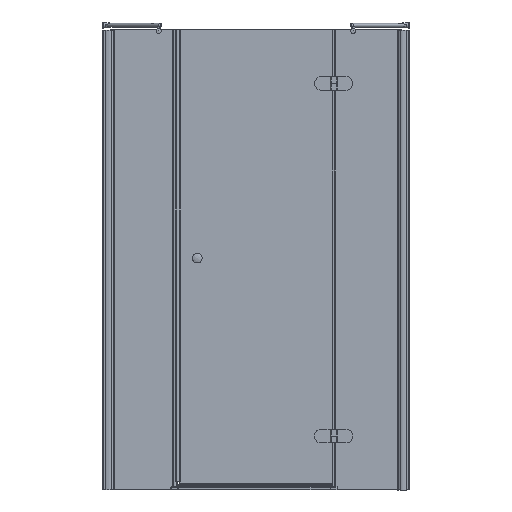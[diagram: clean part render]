
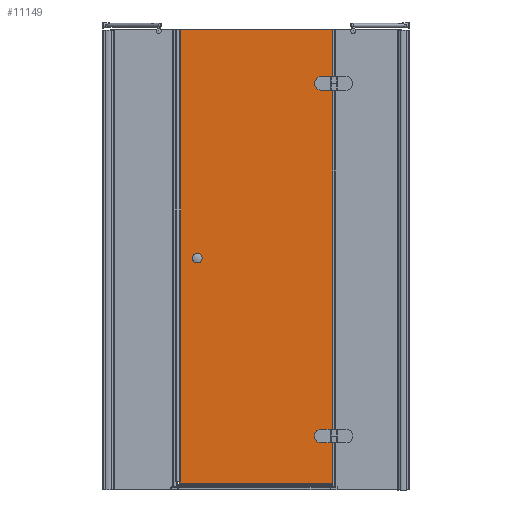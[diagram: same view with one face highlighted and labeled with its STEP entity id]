
A CAD part, front view. The second image highlights one B-rep face of the part: STEP entity #11149.
In plain terms, the highlighted planar face has unit normal (0, -1, 0).
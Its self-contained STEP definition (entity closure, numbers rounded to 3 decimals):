
#70=LINE($,#15742,#1174);
#78=LINE($,#15777,#1182);
#139=LINE($,#16171,#1243);
#143=LINE($,#16178,#1247);
#146=LINE($,#16187,#1250);
#236=LINE($,#16419,#1340);
#240=LINE($,#16426,#1344);
#243=LINE($,#16435,#1347);
#379=LINE($,#16868,#1483);
#967=LINE($,#18336,#2071);
#969=LINE($,#18343,#2073);
#979=LINE($,#18373,#2083);
#981=LINE($,#18376,#2085);
#984=LINE($,#18381,#2088);
#985=LINE($,#18383,#2089);
#1174=VECTOR($,#12446,3.387);
#1182=VECTOR($,#12474,595.4);
#1243=VECTOR($,#12641,52.);
#1247=VECTOR($,#12647,23.);
#1250=VECTOR($,#12658,23.);
#1340=VECTOR($,#12884,52.);
#1344=VECTOR($,#12890,23.);
#1347=VECTOR($,#12901,23.);
#1483=VECTOR($,#13281,600.);
#2071=VECTOR($,#14689,1767.);
#2073=VECTOR($,#14697,1767.);
#2083=VECTOR($,#14735,1767.);
#2085=VECTOR($,#14739,1.213);
#2088=VECTOR($,#14746,8.4);
#2089=VECTOR($,#14749,1775.4);
#2515=FACE_BOUND($,#3640,.T.);
#2516=FACE_BOUND($,#3641,.T.);
#2517=FACE_BOUND($,#3642,.T.);
#3640=EDGE_LOOP($,(#8894,#8895,#8896,#8897));
#3641=EDGE_LOOP($,(#8898,#8899,#8900,#8901));
#3642=EDGE_LOOP($,(#8902,#8903,#8904,#8905,#8906,#8907,#8908,#8909,#8910));
#3852=CIRCLE($,#11429,26.);
#3875=CIRCLE($,#11502,26.);
#4206=VERTEX_POINT($,#15740);
#4207=VERTEX_POINT($,#15741);
#4223=VERTEX_POINT($,#15774);
#4224=VERTEX_POINT($,#15776);
#4307=VERTEX_POINT($,#16168);
#4308=VERTEX_POINT($,#16170);
#4310=VERTEX_POINT($,#16176);
#4312=VERTEX_POINT($,#16182);
#4385=VERTEX_POINT($,#16416);
#4386=VERTEX_POINT($,#16418);
#4388=VERTEX_POINT($,#16424);
#4390=VERTEX_POINT($,#16430);
#4532=VERTEX_POINT($,#16864);
#4533=VERTEX_POINT($,#16866);
#4953=VERTEX_POINT($,#18335);
#4955=VERTEX_POINT($,#18341);
#4961=VERTEX_POINT($,#18371);
#5169=EDGE_CURVE($,#4206,#4207,#70,.T.);
#5187=EDGE_CURVE($,#4224,#4223,#78,.T.);
#5287=EDGE_CURVE($,#4307,#4308,#139,.T.);
#5291=EDGE_CURVE($,#4310,#4307,#143,.T.);
#5294=EDGE_CURVE($,#4312,#4310,#3852,.T.);
#5296=EDGE_CURVE($,#4308,#4312,#146,.T.);
#5407=EDGE_CURVE($,#4385,#4386,#236,.T.);
#5411=EDGE_CURVE($,#4388,#4385,#240,.T.);
#5414=EDGE_CURVE($,#4390,#4388,#3875,.T.);
#5416=EDGE_CURVE($,#4386,#4390,#243,.T.);
#5614=EDGE_CURVE($,#4533,#4532,#379,.T.);
#6333=EDGE_CURVE($,#4953,#4206,#967,.T.);
#6337=EDGE_CURVE($,#4955,#4223,#969,.T.);
#6352=EDGE_CURVE($,#4961,#4207,#979,.T.);
#6354=EDGE_CURVE($,#4953,#4955,#981,.T.);
#6357=EDGE_CURVE($,#4532,#4961,#984,.T.);
#6358=EDGE_CURVE($,#4533,#4224,#985,.T.);
#8894=ORIENTED_EDGE($,*,*,#5287,.F.);
#8895=ORIENTED_EDGE($,*,*,#5291,.F.);
#8896=ORIENTED_EDGE($,*,*,#5294,.F.);
#8897=ORIENTED_EDGE($,*,*,#5296,.F.);
#8898=ORIENTED_EDGE($,*,*,#5407,.F.);
#8899=ORIENTED_EDGE($,*,*,#5411,.F.);
#8900=ORIENTED_EDGE($,*,*,#5414,.F.);
#8901=ORIENTED_EDGE($,*,*,#5416,.F.);
#8902=ORIENTED_EDGE($,*,*,#5614,.F.);
#8903=ORIENTED_EDGE($,*,*,#6358,.T.);
#8904=ORIENTED_EDGE($,*,*,#5187,.T.);
#8905=ORIENTED_EDGE($,*,*,#6337,.F.);
#8906=ORIENTED_EDGE($,*,*,#6354,.F.);
#8907=ORIENTED_EDGE($,*,*,#6333,.T.);
#8908=ORIENTED_EDGE($,*,*,#5169,.T.);
#8909=ORIENTED_EDGE($,*,*,#6352,.F.);
#8910=ORIENTED_EDGE($,*,*,#6357,.F.);
#9970=PLANE($,#12056);
#11149=ADVANCED_FACE($,(#2515,#2516,#2517),#9970,.F.);
#11429=AXIS2_PLACEMENT_3D($,#16184,#12653,#12654);
#11502=AXIS2_PLACEMENT_3D($,#16432,#12896,#12897);
#12056=AXIS2_PLACEMENT_3D($,#18382,#14747,#14748);
#12446=DIRECTION($,(-1.,0.,0.));
#12474=DIRECTION($,(-1.,0.,0.));
#12641=DIRECTION($,(0.,0.,1.));
#12647=DIRECTION($,(1.,0.,0.));
#12653=DIRECTION('center_axis',(0.,-1.,0.));
#12654=DIRECTION('ref_axis',(0.,0.,
1.));
#12658=DIRECTION($,(-1.,0.,0.));
#12884=DIRECTION($,(0.,0.,1.));
#12890=DIRECTION($,(1.,0.,0.));
#12896=DIRECTION('center_axis',(0.,-1.,0.));
#12897=DIRECTION('ref_axis',(0.,0.,
1.));
#12901=DIRECTION($,(-1.,0.,0.));
#13281=DIRECTION($,(-1.,0.,0.));
#14689=DIRECTION($,(0.,0.,1.));
#14697=DIRECTION($,(0.,0.,1.));
#14735=DIRECTION($,(0.,0.,1.));
#14739=DIRECTION($,(1.,0.,0.));
#14746=DIRECTION($,(0.,0.,1.));
#14747=DIRECTION('center_axis',(0.,1.,0.));
#14748=DIRECTION('ref_axis',(-1.,0.,0.));
#14749=DIRECTION($,(0.,0.,1.));
#15740=CARTESIAN_POINT('',(3841.914,-860.053,2654.719));
#15741=CARTESIAN_POINT('',(3838.527,-860.053,2654.719));
#15742=CARTESIAN_POINT($,(4438.527,-860.053,2654.719));
#15774=CARTESIAN_POINT('',(3843.127,-860.053,2654.719));
#15776=CARTESIAN_POINT('',(4438.527,-860.053,2654.719));
#15777=CARTESIAN_POINT($,(4438.527,-860.053,2654.719));
#16168=CARTESIAN_POINT('',(4417.527,-860.053,1038.719));
#16170=CARTESIAN_POINT('',(4417.527,-860.053,1090.719));
#16171=CARTESIAN_POINT($,(4417.527,-860.053,956.719));
#16176=CARTESIAN_POINT('',(4394.527,-860.053,1038.719));
#16178=CARTESIAN_POINT($,(4416.527,-860.053,1038.719));
#16182=CARTESIAN_POINT('',(4394.527,-860.053,1090.719));
#16184=CARTESIAN_POINT('Origin',(4394.527,-860.053,1064.719));
#16187=CARTESIAN_POINT($,(4428.027,-860.053,1090.719));
#16416=CARTESIAN_POINT('',(4417.527,-860.053,2418.719));
#16418=CARTESIAN_POINT('',(4417.527,-860.053,2470.719));
#16419=CARTESIAN_POINT($,(4417.527,-860.053,1646.719));
#16424=CARTESIAN_POINT('',(4394.527,-860.053,2418.719));
#16426=CARTESIAN_POINT($,(4416.527,-860.053,2418.719));
#16430=CARTESIAN_POINT('',(4394.527,-860.053,2470.719));
#16432=CARTESIAN_POINT('Origin',(4394.527,-860.053,2444.719));
#16435=CARTESIAN_POINT($,(4428.027,-860.053,2470.719));
#16864=CARTESIAN_POINT('',(3838.527,-860.053,879.319));
#16866=CARTESIAN_POINT('',(4438.527,-860.053,879.319));
#16868=CARTESIAN_POINT($,(4438.527,-860.053,879.319));
#18335=CARTESIAN_POINT('',(3841.914,-860.053,887.719));
#18336=CARTESIAN_POINT($,(3841.914,-860.053,887.719));
#18341=CARTESIAN_POINT('',(3843.127,-860.053,887.719));
#18343=CARTESIAN_POINT($,(3843.127,-860.053,887.719));
#18371=CARTESIAN_POINT('',(3838.527,-860.053,887.719));
#18373=CARTESIAN_POINT($,(3838.527,-860.053,874.719));
#18376=CARTESIAN_POINT($,(4139.119,-860.053,887.719));
#18381=CARTESIAN_POINT($,(3838.527,-860.053,874.719));
#18382=CARTESIAN_POINT('Origin',(4438.527,-860.053,874.719));
#18383=CARTESIAN_POINT($,(4438.527,-860.053,874.719));
